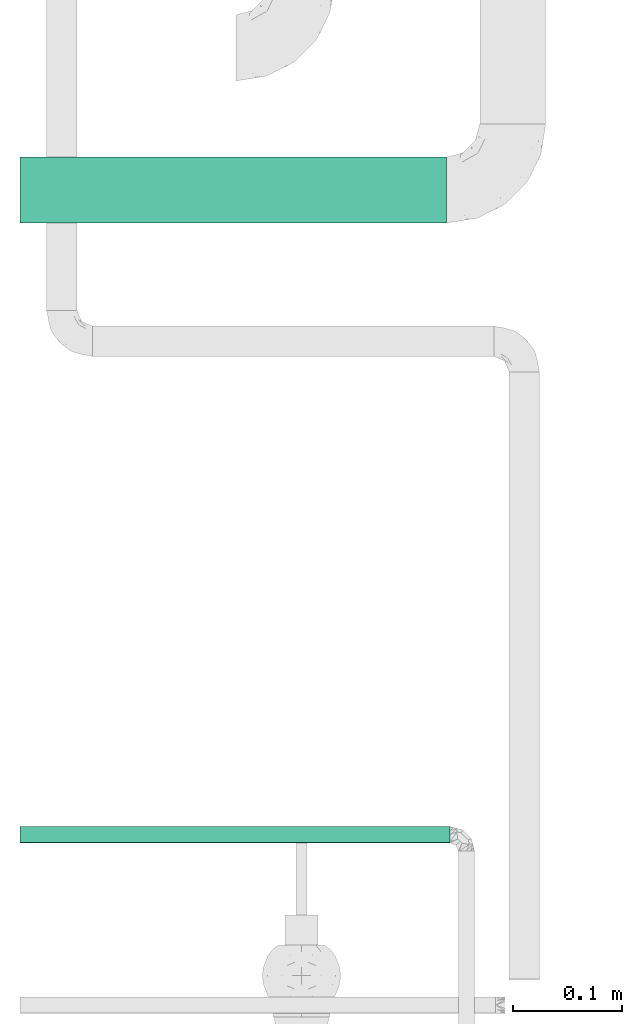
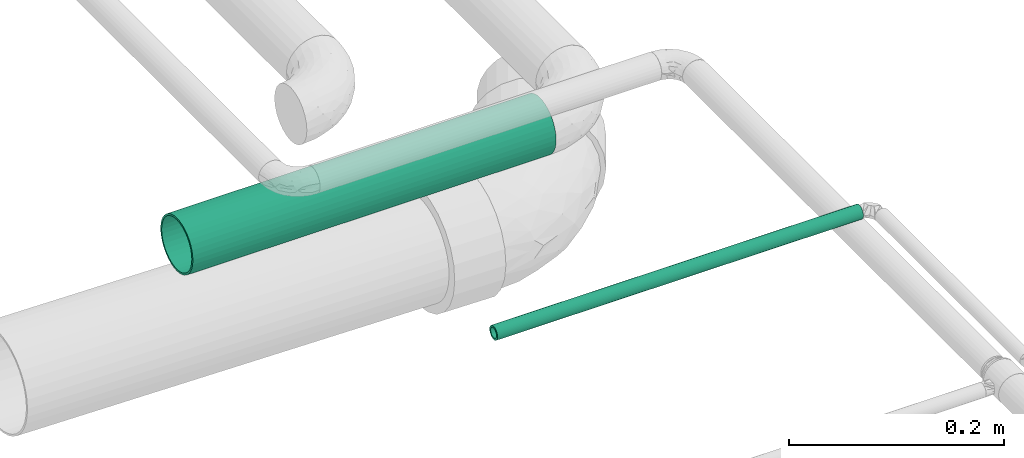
# One storey, part 25 of 35: 2 flow segments.
"""IFC2X3 building model written with IfcOpenShell, lengths in millimetres."""

from ifc_helpers import new_model, entity, si_unit, converted_unit, derived_unit, direction, frame, place, context, subcontext, project, spatial, faceted_brep, type_object, element, save


model = new_model("IFC2X3")

# Units and contexts
model_context = context("Model", 3, precision=0.01, world=frame((0.0, 4.29681676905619e-09, 0.0)), true_north=direction((4.01073788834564e-13, 1.0)))
plan_context = context("Plan", 3, precision=0.01, world=frame((0.0, 4.29681676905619e-09, 0.0)), true_north=direction((4.01073788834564e-13, 1.0)))
body_context = subcontext(model_context, "Body", "Model", "MODEL_VIEW")
ifc_project = project(units=[converted_unit("PLANEANGLEUNIT", "DEGREE", entity("IfcPositiveLengthMeasure", 0.0174532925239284), si_unit("PLANEANGLEUNIT", "RADIAN"), dimensions=[0, 0, 0, 0, 0, 0, 0]), si_unit("AREAUNIT", "SQUARE_METRE"), si_unit("LENGTHUNIT", "METRE", prefix="MILLI"), si_unit("MASSUNIT", "GRAM", prefix="KILO"), si_unit("POWERUNIT", "WATT"), si_unit("PRESSUREUNIT", "PASCAL"), si_unit("FORCEUNIT", "NEWTON", prefix="KILO"), si_unit("ELECTRICVOLTAGEUNIT", "VOLT"), si_unit("ELECTRICCURRENTUNIT", "AMPERE"), si_unit("THERMODYNAMICTEMPERATUREUNIT", "DEGREE_CELSIUS"), si_unit("TIMEUNIT", "SECOND"), si_unit("VOLUMEUNIT", "CUBIC_METRE"), derived_unit("LINEARVELOCITYUNIT", [(si_unit("LENGTHUNIT", "METRE"), 1), (si_unit("TIMEUNIT", "SECOND"), -1)]), derived_unit("VOLUMETRICFLOWRATEUNIT", [(si_unit("VOLUMEUNIT", "CUBIC_METRE"), 1), (si_unit("TIMEUNIT", "SECOND"), -1)]), derived_unit("THERMALTRANSMITTANCEUNIT", [(si_unit("POWERUNIT", "WATT"), 1), (si_unit("THERMODYNAMICTEMPERATUREUNIT", "KELVIN"), -1), (si_unit("AREAUNIT", "SQUARE_METRE"), -1)]), derived_unit("SOUNDPRESSUREUNIT", [(si_unit("PRESSUREUNIT", "PASCAL"), 1)])], contexts=[model_context, plan_context])

# Site, building, storey
site_placement = place(None, frame((0.0, -4.29681676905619e-09, 0.0), z_axis=(0.0, 0.0, 1.0), x_axis=(1.0, 0.0, 0.0)))
site = spatial("IfcSite", under=ifc_project, at=site_placement, Name="ENGM", CompositionType="ELEMENT")
building_placement = place(site_placement, frame((0.0, 4.29681676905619e-09, 0.0), z_axis=(0.0, 0.0, 1.0), x_axis=(1.0, 0.0, 0.0)))
building = spatial("IfcBuilding", under=site, at=building_placement, Name="TH", CompositionType="ELEMENT")
storey_placement = place(building_placement, frame((0.0, 0.0, 210200.0), z_axis=(0.0, 0.0, 1.0), x_axis=(1.0, 0.0, 0.0)))
storey = spatial("IfcBuildingStorey", under=building, at=storey_placement, Name="Nivå F - 0,7 m", CompositionType="ELEMENT", Elevation=210200.0)

# Flow segments
pipe_segment_type_1 = type_object("IfcPipeSegmentType", Name="Stålrør normaltykke", PredefinedType="RIGIDSEGMENT")
flow_segment_1_placement = place(storey_placement, frame((895502.41931, 479437.90014, 2921.0), z_axis=(0.0, 0.0, 1.0), x_axis=(-1.0, 0.0, 0.0)))
element("IfcFlowSegment", 1, at=flow_segment_1_placement, inside=storey, type_object=pipe_segment_type_1, Name="Stålrør normaltykke", context=body_context, shape_type="Brep", body=[
    faceted_brep([(390.513141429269, 28.1, 0.0), (390.513141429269, 27.673097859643, -4.87951379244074), (0.0, 27.673097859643, -4.87951379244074), (0.0, 28.1, 0.0), (390.513141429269, 26.405362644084, -9.61076602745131), (0.0, 26.405362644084, -9.61076602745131), (390.513141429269, 24.3353138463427, -14.05), (0.0, 24.3353138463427, -14.05), (390.513141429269, 21.5258488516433, -18.0623318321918), (0.0, 21.5258488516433, -18.0623318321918), (390.513141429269, 18.0623318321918, -21.5258488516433), (0.0, 18.0623318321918, -21.5258488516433), (390.513141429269, 14.05, -24.3353138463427), (0.0, 14.05, -24.3353138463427), (390.513141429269, 9.61076602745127, -26.405362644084), (0.0, 9.61076602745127, -26.405362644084), (390.513141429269, 4.87951379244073, -27.6730978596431), (0.0, 4.87951379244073, -27.6730978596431), (390.513141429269, -5.16188625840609e-15, -28.1), (0.0, -5.16188625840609e-15, -28.1), (390.513141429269, -4.87951379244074, -27.673097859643), (0.0, -4.87951379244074, -27.673097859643), (390.513141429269, -9.61076602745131, -26.405362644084), (0.0, -9.61076602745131, -26.405362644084), (390.513141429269, -14.05, -24.3353138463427), (0.0, -14.05, -24.3353138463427), (390.513141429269, -18.0623318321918, -21.5258488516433), (0.0, -18.0623318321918, -21.5258488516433), (390.513141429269, -21.5258488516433, -18.0623318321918), (0.0, -21.5258488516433, -18.0623318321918), (390.513141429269, -24.3353138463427, -14.05), (0.0, -24.3353138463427, -14.05), (390.513141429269, -26.405362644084, -9.61076602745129), (0.0, -26.405362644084, -9.61076602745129), (390.513141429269, -27.6730978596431, -4.87951379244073), (0.0, -27.6730978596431, -4.87951379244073), (390.513141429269, -28.1, 3.44125750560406e-15), (0.0, -28.1, 3.44125750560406e-15), (390.513141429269, -27.673097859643, 4.87951379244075), (0.0, -27.673097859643, 4.87951379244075), (390.513141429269, -26.405362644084, 9.6107660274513), (0.0, -26.405362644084, 9.6107660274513), (390.513141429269, -24.3353138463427, 14.05), (0.0, -24.3353138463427, 14.05), (390.513141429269, -21.5258488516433, 18.0623318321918), (0.0, -21.5258488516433, 18.0623318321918), (390.513141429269, -18.0623318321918, 21.5258488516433), (0.0, -18.0623318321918, 21.5258488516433), (390.513141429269, -14.05, 24.3353138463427), (0.0, -14.05, 24.3353138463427), (390.513141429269, -9.61076602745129, 26.405362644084), (0.0, -9.61076602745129, 26.405362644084), (390.513141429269, -4.87951379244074, 27.673097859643), (0.0, -4.87951379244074, 27.673097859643), (390.513141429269, 1.72062875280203e-15, 28.1), (0.0, 1.72062875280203e-15, 28.1), (390.513141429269, 4.87951379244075, 27.673097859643), (0.0, 4.87951379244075, 27.673097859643), (390.513141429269, 9.61076602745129, 26.405362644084), (0.0, 9.61076602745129, 26.405362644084), (390.513141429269, 14.05, 24.3353138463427), (0.0, 14.05, 24.3353138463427), (390.513141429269, 18.0623318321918, 21.5258488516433), (0.0, 18.0623318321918, 21.5258488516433), (390.513141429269, 21.5258488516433, 18.0623318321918), (0.0, 21.5258488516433, 18.0623318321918), (390.513141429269, 24.3353138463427, 14.05), (0.0, 24.3353138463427, 14.05), (390.513141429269, 26.405362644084, 9.61076602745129), (0.0, 26.405362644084, 9.61076602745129), (390.513141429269, 27.673097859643, 4.87951379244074), (0.0, 27.673097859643, 4.87951379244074), (390.513141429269, 29.6427133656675, -5.2268101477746), (390.513141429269, 30.1, 0.0), (0.0, 30.1, 0.0), (0.0, 29.6427133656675, -5.2268101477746), (390.513141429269, 29.6427133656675, 5.2268101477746), (0.0, 29.6427133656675, 5.2268101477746), (390.513141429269, 28.2847478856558, 10.2948063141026), (0.0, 28.2847478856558, 10.2948063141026), (390.513141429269, 26.0673646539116, 15.05), (0.0, 26.0673646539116, 15.05), (390.513141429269, 23.0579377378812, 19.3479070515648), (0.0, 23.0579377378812, 19.3479070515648), (390.513141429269, 19.3479070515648, 23.0579377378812), (0.0, 19.3479070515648, 23.0579377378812), (390.513141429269, 15.05, 26.0673646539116), (0.0, 15.05, 26.0673646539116), (390.513141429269, 10.2948063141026, 28.2847478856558), (0.0, 10.2948063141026, 28.2847478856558), (390.513141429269, 5.22681014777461, 29.6427133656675), (0.0, 5.22681014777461, 29.6427133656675), (390.513141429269, 1.84309343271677e-15, 30.1), (0.0, 1.84309343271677e-15, 30.1), (390.513141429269, -5.2268101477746, 29.6427133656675), (0.0, -5.2268101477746, 29.6427133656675), (390.513141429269, -10.2948063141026, 28.2847478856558), (0.0, -10.2948063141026, 28.2847478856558), (390.513141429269, -15.05, 26.0673646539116), (0.0, -15.05, 26.0673646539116), (390.513141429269, -19.3479070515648, 23.0579377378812), (0.0, -19.3479070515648, 23.0579377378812), (390.513141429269, -23.0579377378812, 19.3479070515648), (0.0, -23.0579377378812, 19.3479070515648), (390.513141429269, -26.0673646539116, 15.05), (0.0, -26.0673646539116, 15.05), (390.513141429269, -28.2847478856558, 10.2948063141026), (0.0, -28.2847478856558, 10.2948063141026), (390.513141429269, -29.6427133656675, 5.22681014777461), (0.0, -29.6427133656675, 5.22681014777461), (390.513141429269, -30.1, 3.68618686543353e-15), (0.0, -30.1, 3.68618686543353e-15), (390.513141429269, -29.6427133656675, -5.22681014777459), (0.0, -29.6427133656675, -5.22681014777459), (390.513141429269, -28.2847478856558, -10.2948063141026), (0.0, -28.2847478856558, -10.2948063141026), (390.513141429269, -26.0673646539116, -15.05), (0.0, -26.0673646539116, -15.05), (390.513141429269, -23.0579377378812, -19.3479070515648), (0.0, -23.0579377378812, -19.3479070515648), (390.513141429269, -19.3479070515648, -23.0579377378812), (0.0, -19.3479070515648, -23.0579377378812), (390.513141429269, -15.05, -26.0673646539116), (0.0, -15.05, -26.0673646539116), (390.513141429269, -10.2948063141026, -28.2847478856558), (0.0, -10.2948063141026, -28.2847478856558), (390.513141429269, -5.2268101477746, -29.6427133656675), (0.0, -5.2268101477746, -29.6427133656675), (390.513141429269, -5.5292802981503e-15, -30.1), (0.0, -5.5292802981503e-15, -30.1), (390.513141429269, 5.22681014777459, -29.6427133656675), (0.0, 5.22681014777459, -29.6427133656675), (390.513141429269, 10.2948063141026, -28.2847478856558), (0.0, 10.2948063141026, -28.2847478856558), (390.513141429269, 15.05, -26.0673646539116), (0.0, 15.05, -26.0673646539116), (390.513141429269, 19.3479070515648, -23.0579377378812), (0.0, 19.3479070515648, -23.0579377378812), (390.513141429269, 23.0579377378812, -19.3479070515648), (0.0, 23.0579377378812, -19.3479070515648), (390.513141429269, 26.0673646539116, -15.05), (0.0, 26.0673646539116, -15.05), (390.513141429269, 28.2847478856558, -10.2948063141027), (0.0, 28.2847478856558, -10.2948063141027)], [[[0, 1, 2, 3]], [[1, 4, 5, 2]], [[4, 6, 7, 5]], [[6, 8, 9, 7]], [[8, 10, 11, 9]], [[10, 12, 13, 11]], [[12, 14, 15, 13]], [[14, 16, 17, 15]], [[16, 18, 19, 17]], [[18, 20, 21, 19]], [[20, 22, 23, 21]], [[22, 24, 25, 23]], [[24, 26, 27, 25]], [[26, 28, 29, 27]], [[28, 30, 31, 29]], [[30, 32, 33, 31]], [[32, 34, 35, 33]], [[34, 36, 37, 35]], [[36, 38, 39, 37]], [[38, 40, 41, 39]], [[40, 42, 43, 41]], [[42, 44, 45, 43]], [[44, 46, 47, 45]], [[46, 48, 49, 47]], [[48, 50, 51, 49]], [[50, 52, 53, 51]], [[52, 54, 55, 53]], [[54, 56, 57, 55]], [[56, 58, 59, 57]], [[58, 60, 61, 59]], [[60, 62, 63, 61]], [[62, 64, 65, 63]], [[64, 66, 67, 65]], [[66, 68, 69, 67]], [[68, 70, 71, 69]], [[70, 0, 3, 71]], [[72, 73, 74, 75]], [[73, 76, 77, 74]], [[76, 78, 79, 77]], [[78, 80, 81, 79]], [[80, 82, 83, 81]], [[82, 84, 85, 83]], [[84, 86, 87, 85]], [[86, 88, 89, 87]], [[88, 90, 91, 89]], [[90, 92, 93, 91]], [[92, 94, 95, 93]], [[94, 96, 97, 95]], [[96, 98, 99, 97]], [[98, 100, 101, 99]], [[100, 102, 103, 101]], [[102, 104, 105, 103]], [[104, 106, 107, 105]], [[106, 108, 109, 107]], [[108, 110, 111, 109]], [[110, 112, 113, 111]], [[112, 114, 115, 113]], [[114, 116, 117, 115]], [[116, 118, 119, 117]], [[118, 120, 121, 119]], [[120, 122, 123, 121]], [[122, 124, 125, 123]], [[124, 126, 127, 125]], [[126, 128, 129, 127]], [[128, 130, 131, 129]], [[130, 132, 133, 131]], [[132, 134, 135, 133]], [[134, 136, 137, 135]], [[136, 138, 139, 137]], [[138, 140, 141, 139]], [[140, 142, 143, 141]], [[142, 72, 75, 143]], [[75, 74, 77, 79, 81, 83, 85, 87, 89, 91, 93, 95, 97, 99, 101, 103, 105, 107, 109, 111, 113, 115, 117, 119, 121, 123, 125, 127, 129, 131, 133, 135, 137, 139, 141, 143], [3, 2, 5, 7, 9, 11, 13, 15, 17, 19, 21, 23, 25, 27, 29, 31, 33, 35, 37, 39, 41, 43, 45, 47, 49, 51, 53, 55, 57, 59, 61, 63, 65, 67, 69, 71]], [[142, 140, 138, 136, 134, 132, 130, 128, 126, 124, 122, 120, 118, 116, 114, 112, 110, 108, 106, 104, 102, 100, 98, 96, 94, 92, 90, 88, 86, 84, 82, 80, 78, 76, 73, 72], [70, 68, 66, 64, 62, 60, 58, 56, 54, 52, 50, 48, 46, 44, 42, 40, 38, 36, 34, 32, 30, 28, 26, 24, 22, 20, 18, 16, 14, 12, 10, 8, 6, 4, 1, 0]]], orient=[[False], [False], [False], [False], [False], [False], [False], [False], [False], [False], [False], [False], [False], [False], [False], [False], [False], [False], [False], [False], [False], [False], [False], [False], [False], [False], [False], [False], [False], [False], [False], [False], [False], [False], [False], [False], [False], [False], [False], [False], [False], [False], [False], [False], [False], [False], [False], [False], [False], [False], [False], [False], [False], [False], [False], [False], [False], [False], [False], [False], [False], [False], [False], [False], [False], [False], [False], [False], [False], [False], [False], [False], [False, False], [False, False]]),
])
pipe_segment_type_2 = type_object("IfcPipeSegmentType", Name="Kobberrør", PredefinedType="RIGIDSEGMENT")
flow_segment_2_placement = place(storey_placement, frame((893415.17417, 478848.0, 3178.15807999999), z_axis=(0.0, 0.0, 1.0), x_axis=(1.0, 0.0, 0.0)))
element("IfcFlowSegment", 2, at=flow_segment_2_placement, inside=storey, type_object=pipe_segment_type_2, Name="Kobberrør", context=body_context, shape_type="Brep", body=[
    faceted_brep([(1696.73199857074, 5.41644264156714, -0.955064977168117), (1696.73199857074, 5.5, 0.0), (2090.0, 5.5, 0.0), (2090.0, 5.41644264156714, -0.955064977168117), (1696.73199857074, 5.16830941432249, -1.88111078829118), (2090.0, 5.16830941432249, -1.88111078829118), (1696.73199857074, 4.76313972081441, -2.75), (2090.0, 4.76313972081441, -2.75), (1696.73199857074, 4.21324443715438, -3.53533185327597), (2090.0, 4.21324443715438, -3.53533185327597), (1696.73199857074, 3.53533185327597, -4.21324443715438), (2090.0, 3.53533185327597, -4.21324443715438), (1696.73199857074, 2.75, -4.76313972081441), (2090.0, 2.75, -4.76313972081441), (1696.73199857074, 1.88111078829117, -5.1683094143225), (2090.0, 1.88111078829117, -5.1683094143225), (1696.73199857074, 0.955064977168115, -5.41644264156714), (2090.0, 0.955064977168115, -5.41644264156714), (1696.73199857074, -1.01033360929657e-15, -5.5), (2090.0, -1.01033360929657e-15, -5.5), (1696.73199857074, -0.955064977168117, -5.41644264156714), (2090.0, -0.955064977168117, -5.41644264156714), (1696.73199857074, -1.88111078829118, -5.1683094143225), (2090.0, -1.88111078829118, -5.1683094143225), (1696.73199857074, -2.75, -4.76313972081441), (2090.0, -2.75, -4.76313972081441), (1696.73199857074, -3.53533185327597, -4.21324443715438), (2090.0, -3.53533185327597, -4.21324443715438), (1696.73199857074, -4.21324443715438, -3.53533185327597), (2090.0, -4.21324443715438, -3.53533185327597), (1696.73199857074, -4.76313972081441, -2.75), (2090.0, -4.76313972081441, -2.75), (1696.73199857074, -5.1683094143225, -1.88111078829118), (2090.0, -5.1683094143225, -1.88111078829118), (1696.73199857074, -5.41644264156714, -0.955064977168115), (2090.0, -5.41644264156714, -0.955064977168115), (1696.73199857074, -5.5, 6.73555739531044e-16), (2090.0, -5.5, 6.73555739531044e-16), (1696.73199857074, -5.41644264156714, 0.955064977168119), (2090.0, -5.41644264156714, 0.955064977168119), (1696.73199857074, -5.1683094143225, 1.88111078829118), (2090.0, -5.1683094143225, 1.88111078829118), (1696.73199857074, -4.76313972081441, 2.75), (2090.0, -4.76313972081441, 2.75), (1696.73199857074, -4.21324443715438, 3.53533185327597), (2090.0, -4.21324443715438, 3.53533185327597), (1696.73199857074, -3.53533185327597, 4.21324443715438), (2090.0, -3.53533185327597, 4.21324443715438), (1696.73199857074, -2.75, 4.76313972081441), (2090.0, -2.75, 4.76313972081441), (1696.73199857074, -1.88111078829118, 5.1683094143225), (2090.0, -1.88111078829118, 5.1683094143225), (1696.73199857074, -0.955064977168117, 5.41644264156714), (2090.0, -0.955064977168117, 5.41644264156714), (1696.73199857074, 3.36777869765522e-16, 5.5), (2090.0, 3.36777869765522e-16, 5.5), (1696.73199857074, 0.955064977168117, 5.41644264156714), (2090.0, 0.955064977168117, 5.41644264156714), (1696.73199857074, 1.88111078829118, 5.1683094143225), (2090.0, 1.88111078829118, 5.1683094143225), (1696.73199857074, 2.75, 4.76313972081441), (2090.0, 2.75, 4.76313972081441), (1696.73199857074, 3.53533185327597, 4.21324443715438), (2090.0, 3.53533185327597, 4.21324443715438), (1696.73199857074, 4.21324443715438, 3.53533185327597), (2090.0, 4.21324443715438, 3.53533185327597), (1696.73199857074, 4.76313972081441, 2.75), (2090.0, 4.76313972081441, 2.75), (1696.73199857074, 5.1683094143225, 1.88111078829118), (2090.0, 5.1683094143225, 1.88111078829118), (1696.73199857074, 5.41644264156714, 0.955064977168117), (2090.0, 5.41644264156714, 0.955064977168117), (1696.73199857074, 7.5, 0.0), (1696.73199857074, 7.38605814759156, -1.30236133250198), (2090.0, 7.38605814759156, -1.30236133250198), (2090.0, 7.5, 0.0), (1696.73199857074, 7.38605814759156, 1.30236133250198), (2090.0, 7.38605814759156, 1.30236133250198), (1696.73199857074, 7.04769465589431, 2.56515107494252), (2090.0, 7.04769465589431, 2.56515107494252), (1696.73199857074, 6.49519052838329, 3.75), (2090.0, 6.49519052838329, 3.75), (1696.73199857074, 5.74533332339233, 4.82090707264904), (2090.0, 5.74533332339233, 4.82090707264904), (1696.73199857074, 4.82090707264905, 5.74533332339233), (2090.0, 4.82090707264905, 5.74533332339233), (1696.73199857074, 3.75, 6.49519052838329), (2090.0, 3.75, 6.49519052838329), (1696.73199857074, 2.56515107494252, 7.04769465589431), (2090.0, 2.56515107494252, 7.04769465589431), (1696.73199857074, 1.30236133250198, 7.38605814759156), (2090.0, 1.30236133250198, 7.38605814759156), (1696.73199857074, 4.59242549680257e-16, 7.5), (2090.0, 4.59242549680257e-16, 7.5), (1696.73199857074, -1.30236133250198, 7.38605814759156), (2090.0, -1.30236133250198, 7.38605814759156), (1696.73199857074, -2.56515107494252, 7.04769465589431), (2090.0, -2.56515107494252, 7.04769465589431), (1696.73199857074, -3.75, 6.49519052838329), (2090.0, -3.75, 6.49519052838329), (1696.73199857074, -4.82090707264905, 5.74533332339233), (2090.0, -4.82090707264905, 5.74533332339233), (1696.73199857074, -5.74533332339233, 4.82090707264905), (2090.0, -5.74533332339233, 4.82090707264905), (1696.73199857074, -6.49519052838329, 3.75), (2090.0, -6.49519052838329, 3.75), (1696.73199857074, -7.04769465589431, 2.56515107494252), (2090.0, -7.04769465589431, 2.56515107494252), (1696.73199857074, -7.38605814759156, 1.30236133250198), (2090.0, -7.38605814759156, 1.30236133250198), (1696.73199857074, -7.5, 9.18485099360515e-16), (2090.0, -7.5, 9.18485099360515e-16), (1696.73199857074, -7.38605814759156, -1.30236133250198), (2090.0, -7.38605814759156, -1.30236133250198), (1696.73199857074, -7.04769465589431, -2.56515107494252), (2090.0, -7.04769465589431, -2.56515107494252), (1696.73199857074, -6.49519052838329, -3.75), (2090.0, -6.49519052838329, -3.75), (1696.73199857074, -5.74533332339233, -4.82090707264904), (2090.0, -5.74533332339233, -4.82090707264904), (1696.73199857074, -4.82090707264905, -5.74533332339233), (2090.0, -4.82090707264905, -5.74533332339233), (1696.73199857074, -3.75, -6.49519052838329), (2090.0, -3.75, -6.49519052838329), (1696.73199857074, -2.56515107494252, -7.04769465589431), (2090.0, -2.56515107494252, -7.04769465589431), (1696.73199857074, -1.30236133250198, -7.38605814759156), (2090.0, -1.30236133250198, -7.38605814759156), (1696.73199857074, -1.37772764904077e-15, -7.5), (2090.0, -1.37772764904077e-15, -7.5), (1696.73199857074, 1.30236133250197, -7.38605814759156), (2090.0, 1.30236133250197, -7.38605814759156), (1696.73199857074, 2.56515107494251, -7.04769465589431), (2090.0, 2.56515107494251, -7.04769465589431), (1696.73199857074, 3.75, -6.49519052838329), (2090.0, 3.75, -6.49519052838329), (1696.73199857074, 4.82090707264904, -5.74533332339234), (2090.0, 4.82090707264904, -5.74533332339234), (1696.73199857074, 5.74533332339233, -4.82090707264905), (2090.0, 5.74533332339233, -4.82090707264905), (1696.73199857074, 6.49519052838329, -3.75), (2090.0, 6.49519052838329, -3.75), (1696.73199857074, 7.04769465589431, -2.56515107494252), (2090.0, 7.04769465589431, -2.56515107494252)], [[[0, 1, 2, 3]], [[4, 0, 3, 5]], [[6, 4, 5, 7]], [[8, 6, 7, 9]], [[10, 8, 9, 11]], [[12, 10, 11, 13]], [[14, 12, 13, 15]], [[16, 14, 15, 17]], [[18, 16, 17, 19]], [[20, 18, 19, 21]], [[22, 20, 21, 23]], [[24, 22, 23, 25]], [[26, 24, 25, 27]], [[28, 26, 27, 29]], [[30, 28, 29, 31]], [[32, 30, 31, 33]], [[34, 32, 33, 35]], [[36, 34, 35, 37]], [[38, 36, 37, 39]], [[40, 38, 39, 41]], [[42, 40, 41, 43]], [[44, 42, 43, 45]], [[46, 44, 45, 47]], [[48, 46, 47, 49]], [[50, 48, 49, 51]], [[52, 50, 51, 53]], [[54, 52, 53, 55]], [[56, 54, 55, 57]], [[58, 56, 57, 59]], [[60, 58, 59, 61]], [[62, 60, 61, 63]], [[64, 62, 63, 65]], [[66, 64, 65, 67]], [[68, 66, 67, 69]], [[70, 68, 69, 71]], [[1, 70, 71, 2]], [[72, 73, 74, 75]], [[76, 72, 75, 77]], [[78, 76, 77, 79]], [[80, 78, 79, 81]], [[82, 80, 81, 83]], [[84, 82, 83, 85]], [[86, 84, 85, 87]], [[88, 86, 87, 89]], [[90, 88, 89, 91]], [[92, 90, 91, 93]], [[94, 92, 93, 95]], [[96, 94, 95, 97]], [[98, 96, 97, 99]], [[100, 98, 99, 101]], [[102, 100, 101, 103]], [[104, 102, 103, 105]], [[106, 104, 105, 107]], [[108, 106, 107, 109]], [[110, 108, 109, 111]], [[112, 110, 111, 113]], [[114, 112, 113, 115]], [[116, 114, 115, 117]], [[118, 116, 117, 119]], [[120, 118, 119, 121]], [[122, 120, 121, 123]], [[124, 122, 123, 125]], [[126, 124, 125, 127]], [[128, 126, 127, 129]], [[130, 128, 129, 131]], [[132, 130, 131, 133]], [[134, 132, 133, 135]], [[136, 134, 135, 137]], [[138, 136, 137, 139]], [[140, 138, 139, 141]], [[142, 140, 141, 143]], [[73, 142, 143, 74]], [[75, 74, 143, 141, 139, 137, 135, 133, 131, 129, 127, 125, 123, 121, 119, 117, 115, 113, 111, 109, 107, 105, 103, 101, 99, 97, 95, 93, 91, 89, 87, 85, 83, 81, 79, 77], [2, 71, 69, 67, 65, 63, 61, 59, 57, 55, 53, 51, 49, 47, 45, 43, 41, 39, 37, 35, 33, 31, 29, 27, 25, 23, 21, 19, 17, 15, 13, 11, 9, 7, 5, 3]], [[76, 78, 80, 82, 84, 86, 88, 90, 92, 94, 96, 98, 100, 102, 104, 106, 108, 110, 112, 114, 116, 118, 120, 122, 124, 126, 128, 130, 132, 134, 136, 138, 140, 142, 73, 72], [4, 6, 8, 10, 12, 14, 16, 18, 20, 22, 24, 26, 28, 30, 32, 34, 36, 38, 40, 42, 44, 46, 48, 50, 52, 54, 56, 58, 60, 62, 64, 66, 68, 70, 1, 0]]], orient=[[False], [False], [False], [False], [False], [False], [False], [False], [False], [False], [False], [False], [False], [False], [False], [False], [False], [False], [False], [False], [False], [False], [False], [False], [False], [False], [False], [False], [False], [False], [False], [False], [False], [False], [False], [False], [False], [False], [False], [False], [False], [False], [False], [False], [False], [False], [False], [False], [False], [False], [False], [False], [False], [False], [False], [False], [False], [False], [False], [False], [False], [False], [False], [False], [False], [False], [False], [False], [False], [False], [False], [False], [False, False], [False, False]]),
])

save(model, "model.ifc")
